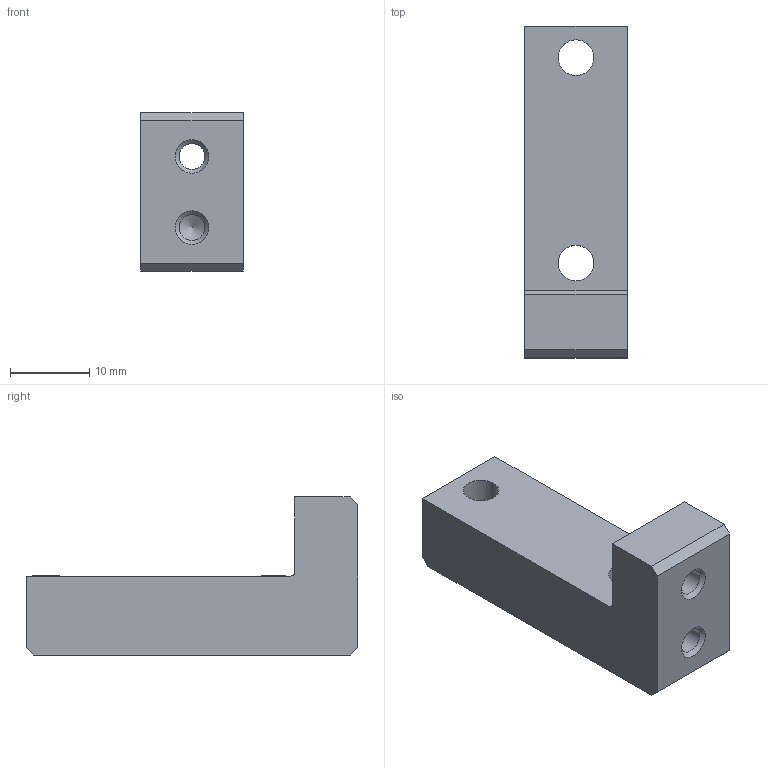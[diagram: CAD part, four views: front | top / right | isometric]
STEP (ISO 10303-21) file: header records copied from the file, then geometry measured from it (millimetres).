
FILE_DESCRIPTION(('STEP AP203'), '1');
FILE_NAME('眐珆1801.01.08.00.005 - 盷謥羻僾鴀', '', ('UNSPECIFIED'), ('UNSPECIFIED'), 'C3D Converter', 'C3D Toolkit', '');
FILE_SCHEMA(('CONFIG_CONTROL_DESIGN'));
Length unit declared in the file: millimetre
Products named in the file (1): ТППФ1801.01.08.00.005
Bounding box: 13 x 42 x 20 mm (x, y, z)
Volume: 5659.8 mm3; surface area: 2985.7 mm2
Topology: 1 solids, 1 shells, 26 faces, 66 edges, 43 vertices
Faces by surface type: plane 16, cylinder 7, cone 3
Full cylindrical faces by diameter (mm): 3.242 x2, 4.5 x2, 8 x1
Entity records: 993 total; most frequent: DIRECTION 127, CARTESIAN_POINT 126, ORIENTED_EDGE 114, EDGE_CURVE 57, AXIS2_PLACEMENT_3D 43, VERTEX_POINT 42, EDGE_LOOP 41, LINE 41
